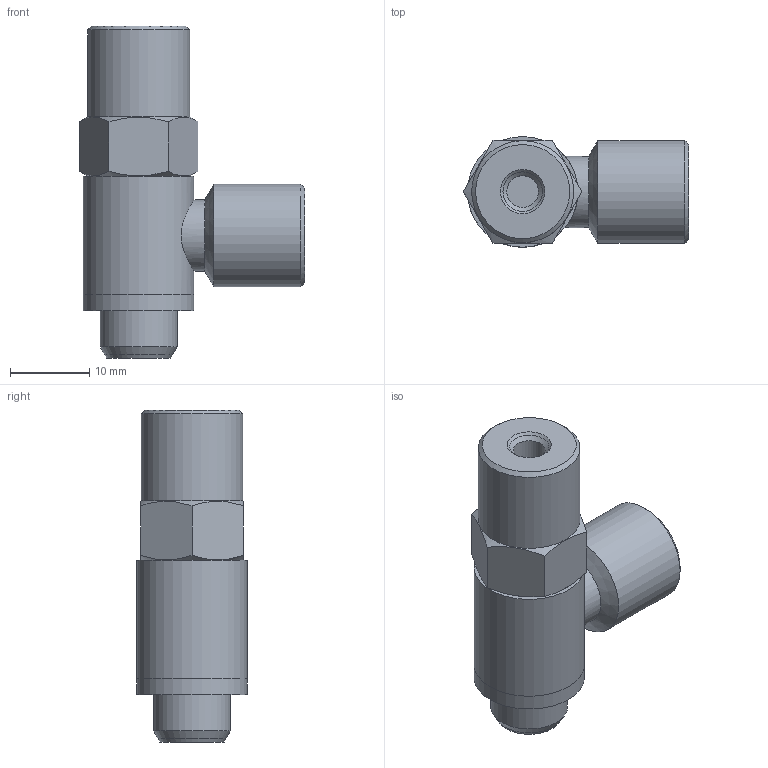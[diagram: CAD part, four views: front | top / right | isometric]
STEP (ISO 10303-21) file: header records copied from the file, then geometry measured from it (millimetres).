
FILE_DESCRIPTION(('Bauteilbeschreibung','HiCAD-Model','HiCAD-STEP-TRANSLATION','Bauteilbeschreibung'),'2;1');
FILE_NAME('B:/STEP FÜR INTERNET/STEP_NEU/RÜCKSCHLAGVENTIL PNEUMATISCH ENTSPERRBAR/304622_RÜCKSCHLAGVENTIL_1-8.STP','2013-04-05T11:19:48+00:00',('Konstrukteur'),('Konstrukteur Firma GmbH'),' HiCAD neXt 2008, Step 3.1.1401.2J ','HiCAD neXt 2008','confidential');
FILE_SCHEMA(('AUTOMOTIVE_DESIGN { 1 2 10303 214 0 1 1 1 }'));
Length unit declared in the file: millimetre
Products named in the file (11): A04622_R_CKSCHLAGVENTIL_1_8; A0902; A09020; G 1_8; A00042_DTG__1_8_UNV ; A04642; A046420; G0108; DIN 13_M5; O_RING; O0RING
Assembly tree (10 placements, depth 3):
  A04622_R_CKSCHLAGVENTIL_1_8
    A0902
    A09020
      G 1_8
    A00042_DTG__1_8_UNV 
    A04642
    A046420
      G0108
      DIN 13_M5
      O_RING
      O0RING
Bounding box: 28.51 x 14 x 42 mm (x, y, z)
Volume: 6131.4 mm3; surface area: 6008.8 mm2
Topology: 8 solids, 8 shells, 101 faces, 220 edges, 140 vertices
Faces by surface type: cylinder 38, plane 37, cone 18, torus 8
Full cylindrical faces by diameter (mm): 3 x4, 4 x1, 4.019 x1, 5 x2, 5.5 x1, 8.2 x3, 8.566 x4, 9 x1, 9.728 x4, 9.85 x3, 9.9 x2, 10 x1, 10.6 x1, 12.9 x1, 13 x1, 14 x2
Entity records: 7111 total; most frequent: CARTESIAN_POINT 4304, DIRECTION 472, ORIENTED_EDGE 284, AXIS2_PLACEMENT_3D 227, EDGE_LOOP 180, EDGE_CURVE 142, COLOUR_RGB 128, PRESENTATION_STYLE_ASSIGNMENT 128
